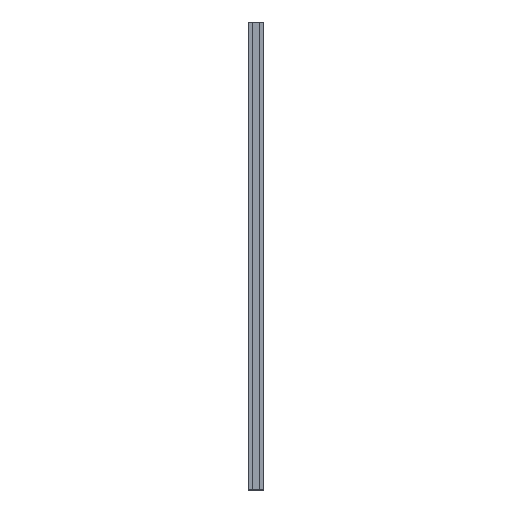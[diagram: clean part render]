
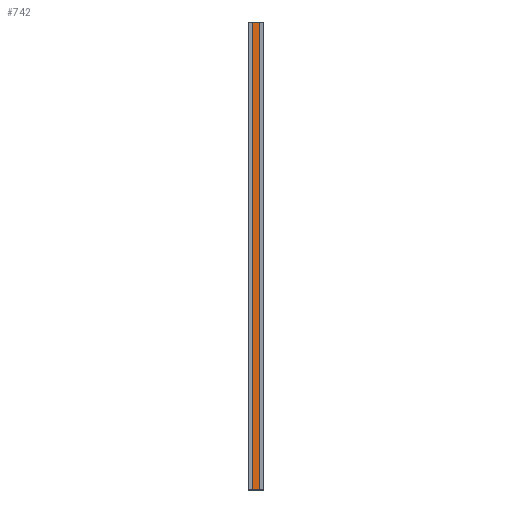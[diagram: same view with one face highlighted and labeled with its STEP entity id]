
A CAD part, top view. The second image highlights one B-rep face of the part: STEP entity #742.
In plain terms, the highlighted planar face has unit normal (0, 0, 1).
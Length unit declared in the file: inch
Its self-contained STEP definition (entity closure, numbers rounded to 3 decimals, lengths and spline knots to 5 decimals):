
#64=FACE_OUTER_BOUND('',#106,.T.);
#106=EDGE_LOOP('',(#523,#524,#525,#526));
#160=LINE('',#1140,#244);
#161=LINE('',#1143,#245);
#162=LINE('',#1145,#246);
#163=LINE('',#1146,#247);
#244=VECTOR('',#918,0.3937);
#245=VECTOR('',#921,0.3937);
#246=VECTOR('',#922,0.3937);
#247=VECTOR('',#923,0.3937);
#325=VERTEX_POINT('',#1136);
#326=VERTEX_POINT('',#1138);
#327=VERTEX_POINT('',#1142);
#328=VERTEX_POINT('',#1144);
#406=EDGE_CURVE('',#325,#326,#160,.T.);
#407=EDGE_CURVE('',#327,#325,#161,.T.);
#408=EDGE_CURVE('',#328,#326,#162,.T.);
#409=EDGE_CURVE('',#327,#328,#163,.T.);
#523=ORIENTED_EDGE('',*,*,#407,.T.);
#524=ORIENTED_EDGE('',*,*,#406,.T.);
#525=ORIENTED_EDGE('',*,*,#408,.F.);
#526=ORIENTED_EDGE('',*,*,#409,.F.);
#709=PLANE('',#814);
#742=ADVANCED_FACE('',(#64),#709,.T.);
#814=AXIS2_PLACEMENT_3D('',#1141,#919,#920);
#918=DIRECTION('',(0.,1.,0.));
#919=DIRECTION('center_axis',(0.,0.,1.));
#920=DIRECTION('ref_axis',(1.,0.,0.));
#921=DIRECTION('',(1.,0.,0.));
#922=DIRECTION('',(1.,0.,0.));
#923=DIRECTION('',(0.,1.,0.));
#1136=CARTESIAN_POINT('',(0.96,0.,0.62));
#1138=CARTESIAN_POINT('',(0.96,120.,0.62));
#1140=CARTESIAN_POINT('',(0.96,0.,0.62));
#1141=CARTESIAN_POINT('Origin',(-0.94,0.,0.62));
#1142=CARTESIAN_POINT('',(-0.94,0.,0.62));
#1143=CARTESIAN_POINT('',(-0.94,0.,0.62));
#1144=CARTESIAN_POINT('',(-0.94,120.,0.62));
#1145=CARTESIAN_POINT('',(-0.94,120.,0.62));
#1146=CARTESIAN_POINT('',(-0.94,0.,0.62));
